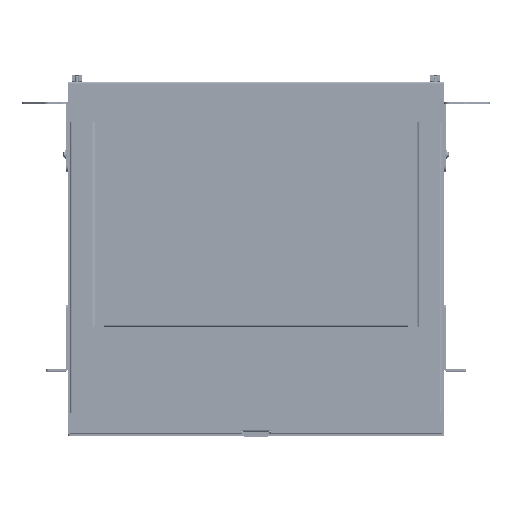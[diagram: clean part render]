
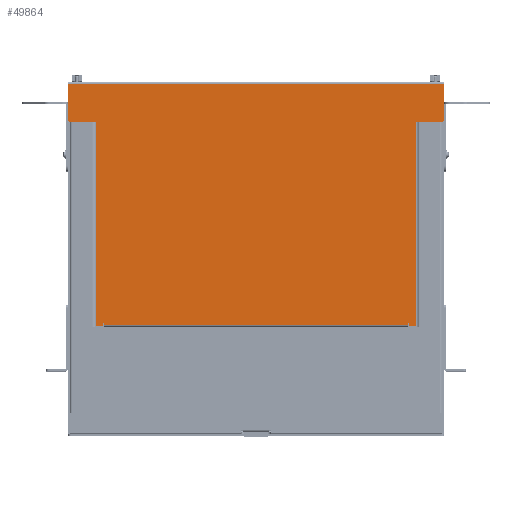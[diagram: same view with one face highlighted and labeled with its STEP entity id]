
A CAD part, top view. The second image highlights one B-rep face of the part: STEP entity #49864.
In plain terms, the highlighted planar face has unit normal (0, 0, 1).
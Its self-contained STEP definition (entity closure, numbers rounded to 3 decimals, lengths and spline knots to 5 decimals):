
#3523=CIRCLE('',#54677,0.00079);
#3525=CIRCLE('',#54682,0.00079);
#3531=CIRCLE('',#54700,0.00152);
#3532=CIRCLE('',#54701,0.00152);
#3533=CIRCLE('',#54702,0.00152);
#3534=CIRCLE('',#54703,0.00152);
#7354=ORIENTED_EDGE('',*,*,#20360,.T.);
#7355=ORIENTED_EDGE('',*,*,#20385,.T.);
#7356=ORIENTED_EDGE('',*,*,#20355,.T.);
#7357=ORIENTED_EDGE('',*,*,#20353,.T.);
#7358=ORIENTED_EDGE('',*,*,#20386,.T.);
#7359=ORIENTED_EDGE('',*,*,#20348,.T.);
#7360=ORIENTED_EDGE('',*,*,#20345,.T.);
#7361=ORIENTED_EDGE('',*,*,#20342,.F.);
#7362=ORIENTED_EDGE('',*,*,#20339,.F.);
#7363=ORIENTED_EDGE('',*,*,#20387,.T.);
#7364=ORIENTED_EDGE('',*,*,#20335,.T.);
#7365=ORIENTED_EDGE('',*,*,#20332,.F.);
#7366=ORIENTED_EDGE('',*,*,#20377,.F.);
#7367=ORIENTED_EDGE('',*,*,#20375,.T.);
#7368=ORIENTED_EDGE('',*,*,#20388,.T.);
#7369=ORIENTED_EDGE('',*,*,#20370,.F.);
#7370=ORIENTED_EDGE('',*,*,#20368,.F.);
#7371=ORIENTED_EDGE('',*,*,#20389,.T.);
#7372=ORIENTED_EDGE('',*,*,#20362,.F.);
#7373=ORIENTED_EDGE('',*,*,#20390,.F.);
#20332=EDGE_CURVE('',#27043,#27045,#3523,.F.);
#20335=EDGE_CURVE('',#27047,#27045,#31577,.T.);
#20339=EDGE_CURVE('',#27049,#27051,#31581,.T.);
#20342=EDGE_CURVE('',#27051,#27053,#3525,.F.);
#20345=EDGE_CURVE('',#27055,#27053,#31585,.T.);
#20348=EDGE_CURVE('',#27057,#27055,#31588,.T.);
#20353=EDGE_CURVE('',#27062,#27061,#31593,.T.);
#20355=EDGE_CURVE('',#27063,#27062,#31595,.T.);
#20360=EDGE_CURVE('',#27068,#27067,#31600,.T.);
#20362=EDGE_CURVE('',#27069,#27070,#31602,.T.);
#20368=EDGE_CURVE('',#27075,#27076,#31608,.T.);
#20370=EDGE_CURVE('',#27076,#27077,#31610,.T.);
#20375=EDGE_CURVE('',#27082,#27081,#31615,.T.);
#20377=EDGE_CURVE('',#27082,#27043,#31617,.T.);
#20385=EDGE_CURVE('',#27067,#27063,#3531,.F.);
#20386=EDGE_CURVE('',#27061,#27057,#3532,.F.);
#20387=EDGE_CURVE('',#27049,#27047,#31621,.F.);
#20388=EDGE_CURVE('',#27081,#27077,#3533,.F.);
#20389=EDGE_CURVE('',#27075,#27070,#3534,.F.);
#20390=EDGE_CURVE('',#27068,#27069,#31622,.T.);
#27043=VERTEX_POINT('',#76726);
#27045=VERTEX_POINT('',#76729);
#27047=VERTEX_POINT('',#76735);
#27049=VERTEX_POINT('',#76741);
#27051=VERTEX_POINT('',#76744);
#27053=VERTEX_POINT('',#76750);
#27055=VERTEX_POINT('',#76756);
#27057=VERTEX_POINT('',#76762);
#27061=VERTEX_POINT('',#76771);
#27062=VERTEX_POINT('',#76773);
#27063=VERTEX_POINT('',#76777);
#27067=VERTEX_POINT('',#76786);
#27068=VERTEX_POINT('',#76788);
#27069=VERTEX_POINT('',#76792);
#27070=VERTEX_POINT('',#76793);
#27075=VERTEX_POINT('',#76804);
#27076=VERTEX_POINT('',#76806);
#27077=VERTEX_POINT('',#76810);
#27081=VERTEX_POINT('',#76819);
#27082=VERTEX_POINT('',#76821);
#31577=LINE('',#76734,#36115);
#31581=LINE('',#76743,#36119);
#31585=LINE('',#76755,#36123);
#31588=LINE('',#76761,#36126);
#31593=LINE('',#76772,#36131);
#31595=LINE('',#76776,#36133);
#31600=LINE('',#76787,#36138);
#31602=LINE('',#76791,#36140);
#31608=LINE('',#76805,#36146);
#31610=LINE('',#76809,#36148);
#31615=LINE('',#76820,#36153);
#31617=LINE('',#76824,#36155);
#31621=LINE('',#76836,#36159);
#31622=LINE('',#76839,#36160);
#36115=VECTOR('',#61142,1.);
#36119=VECTOR('',#61148,1.);
#36123=VECTOR('',#61160,1.);
#36126=VECTOR('',#61165,1.);
#36131=VECTOR('',#61172,1.);
#36133=VECTOR('',#61176,1.);
#36138=VECTOR('',#61183,1.);
#36140=VECTOR('',#61187,1.);
#36146=VECTOR('',#61195,1.);
#36148=VECTOR('',#61199,1.);
#36153=VECTOR('',#61206,1.);
#36155=VECTOR('',#61210,1.);
#36159=VECTOR('',#61230,1.);
#36160=VECTOR('',#61235,1.);
#40671=EDGE_LOOP('',(#7354,#7355,#7356,#7357,#7358,#7359,#7360,#7361,#7362,
#7363,#7364,#7365,#7366,#7367,#7368,#7369,#7370,#7371,#7372,#7373));
#44509=FACE_BOUND('',#40671,.T.);
#48044=PLANE('',#54699);
#49864=ADVANCED_FACE('',(#44509),#48044,.F.);
#54677=AXIS2_PLACEMENT_3D('',#76728,#61135,#61136);
#54682=AXIS2_PLACEMENT_3D('',#76749,#61153,#61154);
#54699=AXIS2_PLACEMENT_3D('',#76833,#61224,#61225);
#54700=AXIS2_PLACEMENT_3D('',#76834,#61226,#61227);
#54701=AXIS2_PLACEMENT_3D('',#76835,#61228,#61229);
#54702=AXIS2_PLACEMENT_3D('',#76837,#61231,#61232);
#54703=AXIS2_PLACEMENT_3D('',#76838,#61233,#61234);
#61135=DIRECTION('',(0.,0.,-1.));
#61136=DIRECTION('',(-1.,0.,0.));
#61142=DIRECTION('',(0.,1.,0.));
#61148=DIRECTION('',(0.,1.,0.));
#61153=DIRECTION('',(0.,0.,-1.));
#61154=DIRECTION('',(-1.,0.,0.));
#61160=DIRECTION('',(0.,1.,0.));
#61165=DIRECTION('',(1.,0.,0.));
#61172=DIRECTION('',(0.,-1.,0.));
#61176=DIRECTION('',(1.,0.,0.));
#61183=DIRECTION('',(0.,-1.,0.));
#61187=DIRECTION('',(0.,-1.,0.));
#61195=DIRECTION('',(-1.,0.,0.));
#61199=DIRECTION('',(0.,-1.,0.));
#61206=DIRECTION('',(1.,0.,0.));
#61210=DIRECTION('',(0.,1.,0.));
#61224=DIRECTION('',(0.,0.,-1.));
#61225=DIRECTION('',(-1.,0.,0.));
#61226=DIRECTION('',(0.,0.,-1.));
#61227=DIRECTION('',(-1.,0.,0.));
#61228=DIRECTION('',(0.,0.,-1.));
#61229=DIRECTION('',(-1.,0.,0.));
#61230=DIRECTION('',(-1.,0.,0.));
#61231=DIRECTION('',(0.,0.,-1.));
#61232=DIRECTION('',(-1.,0.,0.));
#61233=DIRECTION('',(0.,0.,-1.));
#61234=DIRECTION('',(-1.,0.,0.));
#61235=DIRECTION('',(1.,0.,0.));
#76726=CARTESIAN_POINT('',(0.17609,-0.27788,0.));
#76728=CARTESIAN_POINT('',(0.17529,-0.27788,0.));
#76729=CARTESIAN_POINT('',(0.1745,-0.27788,0.));
#76734=CARTESIAN_POINT('',(0.1745,-0.27915,0.));
#76735=CARTESIAN_POINT('',(0.1745,-0.2792,0.));
#76741=CARTESIAN_POINT('',(-0.1745,-0.2792,0.));
#76743=CARTESIAN_POINT('',(-0.1745,-0.27915,0.));
#76744=CARTESIAN_POINT('',(-0.1745,-0.27788,0.));
#76749=CARTESIAN_POINT('',(-0.17529,-0.27788,0.));
#76750=CARTESIAN_POINT('',(-0.17609,-0.27788,0.));
#76755=CARTESIAN_POINT('',(-0.17609,-0.27915,0.));
#76756=CARTESIAN_POINT('',(-0.17609,-0.28042,0.));
#76761=CARTESIAN_POINT('',(0.02429,-0.28042,0.));
#76762=CARTESIAN_POINT('',(-0.18263,-0.28042,0.));
#76771=CARTESIAN_POINT('',(-0.18415,-0.27889,0.));
#76772=CARTESIAN_POINT('',(-0.18415,-0.1632,0.));
#76773=CARTESIAN_POINT('',(-0.18415,-0.04597,0.));
#76776=CARTESIAN_POINT('',(-0.20003,-0.04597,0.));
#76777=CARTESIAN_POINT('',(-0.21438,-0.04597,0.));
#76786=CARTESIAN_POINT('',(-0.2159,-0.04445,0.));
#76787=CARTESIAN_POINT('',(-0.2159,0.,0.));
#76788=CARTESIAN_POINT('',(-0.2159,-0.00254,0.));
#76791=CARTESIAN_POINT('',(0.2159,0.,0.));
#76792=CARTESIAN_POINT('',(0.2159,-0.00254,0.));
#76793=CARTESIAN_POINT('',(0.2159,-0.04445,0.));
#76804=CARTESIAN_POINT('',(0.21438,-0.04597,0.));
#76805=CARTESIAN_POINT('',(0.20003,-0.04597,0.));
#76806=CARTESIAN_POINT('',(0.18415,-0.04597,0.));
#76809=CARTESIAN_POINT('',(0.18415,-0.1632,0.));
#76810=CARTESIAN_POINT('',(0.18415,-0.27889,0.));
#76819=CARTESIAN_POINT('',(0.18263,-0.28042,0.));
#76820=CARTESIAN_POINT('',(0.02429,-0.28042,0.));
#76821=CARTESIAN_POINT('',(0.17609,-0.28042,0.));
#76824=CARTESIAN_POINT('',(0.17609,-0.27915,0.));
#76833=CARTESIAN_POINT('',(0.02429,0.,0.));
#76834=CARTESIAN_POINT('',(-0.21438,-0.04445,0.));
#76835=CARTESIAN_POINT('',(-0.18263,-0.27889,0.));
#76836=CARTESIAN_POINT('',(0.02429,-0.2792,0.));
#76837=CARTESIAN_POINT('',(0.18263,-0.27889,0.));
#76838=CARTESIAN_POINT('',(0.21438,-0.04445,0.));
#76839=CARTESIAN_POINT('',(0.02429,-0.00254,0.));
